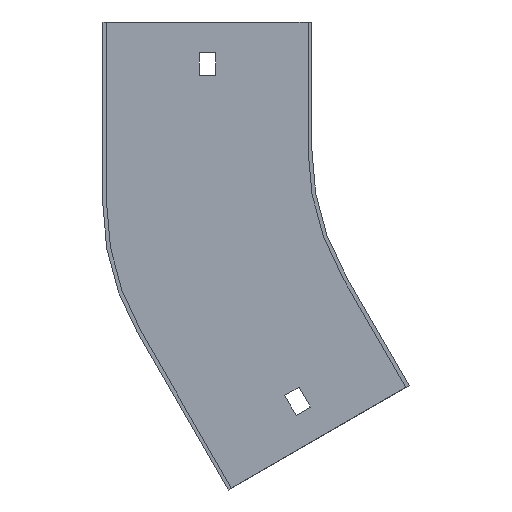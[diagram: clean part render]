
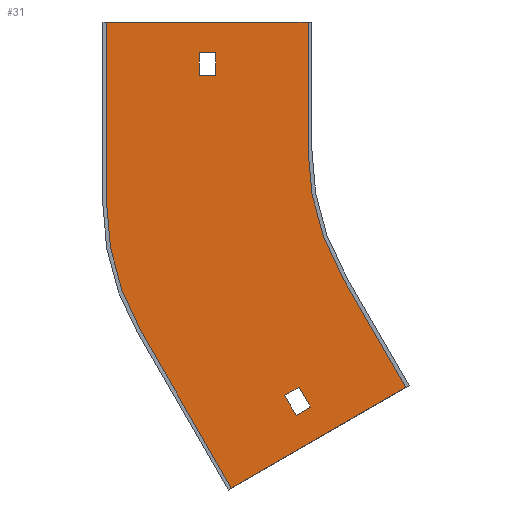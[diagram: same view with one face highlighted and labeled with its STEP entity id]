
A CAD part, front view. The second image highlights one B-rep face of the part: STEP entity #31.
In plain terms, the highlighted planar face has unit normal (0, -1, 0).
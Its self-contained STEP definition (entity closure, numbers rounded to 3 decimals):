
#10 = VECTOR ( 'NONE', #452, 1000. ) ;
#25 = VECTOR ( 'NONE', #812, 1000. ) ;
#27 = DIRECTION ( 'NONE',  ( -0.866, 0., -0.5 ) ) ;
#31 = ADVANCED_FACE ( 'NONE', ( #649, #177, #442 ), #115, .T. ) ;
#33 = VERTEX_POINT ( 'NONE', #791 ) ;
#57 = CARTESIAN_POINT ( 'NONE',  ( -100., -1.5, 50. ) ) ;
#58 = VERTEX_POINT ( 'NONE', #784 ) ;
#59 = DIRECTION ( 'NONE',  ( 0., 0., 1. ) ) ;
#63 = VECTOR ( 'NONE', #90, 1000. ) ;
#67 = VECTOR ( 'NONE', #238, 1000. ) ;
#78 = CARTESIAN_POINT ( 'NONE',  ( -98.996, -1.5, -101.034 ) ) ;
#79 = DIRECTION ( 'NONE',  ( 1., 0., 0. ) ) ;
#84 = CARTESIAN_POINT ( 'NONE',  ( 0., -1.5, 0. ) ) ;
#88 = EDGE_CURVE ( 'NONE', #481, #444, #389, .T. ) ;
#90 = DIRECTION ( 'NONE',  ( -0.866, 0., -0.5 ) ) ;
#102 = ORIENTED_EDGE ( 'NONE', *, *, #235, .F. ) ;
#107 = EDGE_LOOP ( 'NONE', ( #651, #408, #160, #636 ) ) ;
#109 = DIRECTION ( 'NONE',  ( 0., 0., -1. ) ) ;
#112 = EDGE_CURVE ( 'NONE', #219, #33, #153, .T. ) ;
#113 = LINE ( 'NONE', #509, #67 ) ;
#115 = PLANE ( 'NONE',  #499 ) ;
#118 = ORIENTED_EDGE ( 'NONE', *, *, #776, .F. ) ;
#133 = ORIENTED_EDGE ( 'NONE', *, *, #788, .F. ) ;
#137 = CARTESIAN_POINT ( 'NONE',  ( -117.996, -1.5, -68.125 ) ) ;
#141 = CARTESIAN_POINT ( 'NONE',  ( -130.019, -1.5, -132.801 ) ) ;
#144 = CARTESIAN_POINT ( 'NONE',  ( -179., -1.5, -21.168 ) ) ;
#153 = CIRCLE ( 'NONE', #806, 100. ) ;
#160 = ORIENTED_EDGE ( 'NONE', *, *, #339, .T. ) ;
#166 = VERTEX_POINT ( 'NONE', #141 ) ;
#177 = FACE_OUTER_BOUND ( 'NONE', #336, .T. ) ;
#188 = ORIENTED_EDGE ( 'NONE', *, *, #702, .F. ) ;
#192 = DIRECTION ( 'NONE',  ( -1., 0., 0. ) ) ;
#210 = LINE ( 'NONE', #226, #63 ) ;
#219 = VERTEX_POINT ( 'NONE', #419 ) ;
#223 = VECTOR ( 'NONE', #720, 1000. ) ;
#226 = CARTESIAN_POINT ( 'NONE',  ( 14.5, -1.5, -25.115 ) ) ;
#231 = ORIENTED_EDGE ( 'NONE', *, *, #496, .F. ) ;
#235 = EDGE_CURVE ( 'NONE', #319, #166, #626, .T. ) ;
#238 = DIRECTION ( 'NONE',  ( 0.866, 0., 0.5 ) ) ;
#252 = CARTESIAN_POINT ( 'NONE',  ( -136.25, -1.5, 0. ) ) ;
#254 = LINE ( 'NONE', #457, #279 ) ;
#258 = EDGE_CURVE ( 'NONE', #288, #219, #861, .T. ) ;
#266 = CARTESIAN_POINT ( 'NONE',  ( 0., -1.5, 29. ) ) ;
#268 = LINE ( 'NONE', #728, #697 ) ;
#269 = DIRECTION ( 'NONE',  ( 0., -1., 0. ) ) ;
#272 = CARTESIAN_POINT ( 'NONE',  ( -136.25, -1.5, 29. ) ) ;
#279 = VECTOR ( 'NONE', #59, 1000. ) ;
#283 = CARTESIAN_POINT ( 'NONE',  ( -179., -1.5, -21.168 ) ) ;
#288 = VERTEX_POINT ( 'NONE', #785 ) ;
#293 = VECTOR ( 'NONE', #608, 1000. ) ;
#300 = EDGE_CURVE ( 'NONE', #444, #827, #782, .T. ) ;
#301 = ORIENTED_EDGE ( 'NONE', *, *, #450, .F. ) ;
#316 = CARTESIAN_POINT ( 'NONE',  ( -109.125, -1.5, -96.49 ) ) ;
#319 = VERTEX_POINT ( 'NONE', #455 ) ;
#323 = LINE ( 'NONE', #266, #567 ) ;
#325 = LINE ( 'NONE', #144, #722 ) ;
#327 = DIRECTION ( 'NONE',  ( 0., 0., -1. ) ) ;
#336 = EDGE_LOOP ( 'NONE', ( #133, #590, #188, #502, #102, #764, #569, #531 ) ) ;
#339 = EDGE_CURVE ( 'NONE', #827, #638, #323, .T. ) ;
#346 = CIRCLE ( 'NONE', #451, 100. ) ;
#364 = VECTOR ( 'NONE', #718, 1000. ) ;
#376 = CARTESIAN_POINT ( 'NONE',  ( -104.625, -1.5, -104.284 ) ) ;
#386 = DIRECTION ( 'NONE',  ( 1., 0., 0. ) ) ;
#388 = DIRECTION ( 'NONE',  ( 0., 1., 0. ) ) ;
#389 = LINE ( 'NONE', #660, #440 ) ;
#401 = LINE ( 'NONE', #815, #25 ) ;
#408 = ORIENTED_EDGE ( 'NONE', *, *, #300, .T. ) ;
#410 = CARTESIAN_POINT ( 'NONE',  ( -165.603, -1.5, -71.168 ) ) ;
#419 = CARTESIAN_POINT ( 'NONE',  ( -100., -1.5, 0. ) ) ;
#440 = VECTOR ( 'NONE', #79, 1000. ) ;
#442 = FACE_BOUND ( 'NONE', #107, .T. ) ;
#444 = VERTEX_POINT ( 'NONE', #821 ) ;
#447 = CARTESIAN_POINT ( 'NONE',  ( 0., -1.5, 0. ) ) ;
#449 = EDGE_LOOP ( 'NONE', ( #118, #492, #231, #301 ) ) ;
#450 = EDGE_CURVE ( 'NONE', #738, #543, #210, .T. ) ;
#451 = AXIS2_PLACEMENT_3D ( 'NONE', #680, #388, #327 ) ;
#452 = DIRECTION ( 'NONE',  ( -0.5, 0., 0.866 ) ) ;
#455 = CARTESIAN_POINT ( 'NONE',  ( -61.603, -1.5, -93.301 ) ) ;
#457 = CARTESIAN_POINT ( 'NONE',  ( -142.75, -1.5, 0. ) ) ;
#481 = VERTEX_POINT ( 'NONE', #552 ) ;
#487 = EDGE_CURVE ( 'NONE', #33, #319, #751, .T. ) ;
#489 = VERTEX_POINT ( 'NONE', #283 ) ;
#491 = CARTESIAN_POINT ( 'NONE',  ( -86.603, -1.5, -50. ) ) ;
#492 = ORIENTED_EDGE ( 'NONE', *, *, #568, .F. ) ;
#496 = EDGE_CURVE ( 'NONE', #543, #558, #401, .T. ) ;
#499 = AXIS2_PLACEMENT_3D ( 'NONE', #447, #713, #109 ) ;
#502 = ORIENTED_EDGE ( 'NONE', *, *, #659, .F. ) ;
#509 = CARTESIAN_POINT ( 'NONE',  ( 19., -1.5, -32.909 ) ) ;
#521 = DIRECTION ( 'NONE',  ( 0., 0., -1. ) ) ;
#531 = ORIENTED_EDGE ( 'NONE', *, *, #258, .F. ) ;
#543 = VERTEX_POINT ( 'NONE', #316 ) ;
#551 = DIRECTION ( 'NONE',  ( 0., 0., -1. ) ) ;
#552 = CARTESIAN_POINT ( 'NONE',  ( -142.75, -1.5, 38. ) ) ;
#558 = VERTEX_POINT ( 'NONE', #376 ) ;
#561 = CARTESIAN_POINT ( 'NONE',  ( -60.304, -1.5, -92.551 ) ) ;
#567 = VECTOR ( 'NONE', #192, 1000. ) ;
#568 = EDGE_CURVE ( 'NONE', #558, #715, #113, .T. ) ;
#569 = ORIENTED_EDGE ( 'NONE', *, *, #112, .F. ) ;
#590 = ORIENTED_EDGE ( 'NONE', *, *, #853, .F. ) ;
#600 = DIRECTION ( 'NONE',  ( 0., 0., 1. ) ) ;
#608 = DIRECTION ( 'NONE',  ( 0.5, 0., -0.866 ) ) ;
#610 = CARTESIAN_POINT ( 'NONE',  ( -130.019, -1.5, -132.801 ) ) ;
#614 = VECTOR ( 'NONE', #27, 1000. ) ;
#626 = LINE ( 'NONE', #561, #614 ) ;
#636 = ORIENTED_EDGE ( 'NONE', *, *, #848, .T. ) ;
#638 = VERTEX_POINT ( 'NONE', #799 ) ;
#649 = FACE_BOUND ( 'NONE', #449, .T. ) ;
#651 = ORIENTED_EDGE ( 'NONE', *, *, #88, .T. ) ;
#652 = CARTESIAN_POINT ( 'NONE',  ( -103.496, -1.5, -93.24 ) ) ;
#659 = EDGE_CURVE ( 'NONE', #166, #711, #789, .T. ) ;
#660 = CARTESIAN_POINT ( 'NONE',  ( 0., -1.5, 38. ) ) ;
#663 = LINE ( 'NONE', #137, #223 ) ;
#680 = CARTESIAN_POINT ( 'NONE',  ( -79., -1.5, -21.168 ) ) ;
#697 = VECTOR ( 'NONE', #386, 1000. ) ;
#702 = EDGE_CURVE ( 'NONE', #711, #489, #346, .T. ) ;
#707 = VECTOR ( 'NONE', #521, 1000. ) ;
#711 = VERTEX_POINT ( 'NONE', #410 ) ;
#713 = DIRECTION ( 'NONE',  ( 0., -1., 0. ) ) ;
#715 = VERTEX_POINT ( 'NONE', #78 ) ;
#718 = DIRECTION ( 'NONE',  ( 0., 0., -1. ) ) ;
#720 = DIRECTION ( 'NONE',  ( -0.5, 0., 0.866 ) ) ;
#722 = VECTOR ( 'NONE', #600, 1000. ) ;
#728 = CARTESIAN_POINT ( 'NONE',  ( -180.5, -1.5, 50. ) ) ;
#738 = VERTEX_POINT ( 'NONE', #652 ) ;
#751 = LINE ( 'NONE', #491, #293 ) ;
#764 = ORIENTED_EDGE ( 'NONE', *, *, #487, .F. ) ;
#776 = EDGE_CURVE ( 'NONE', #715, #738, #663, .T. ) ;
#782 = LINE ( 'NONE', #252, #364 ) ;
#784 = CARTESIAN_POINT ( 'NONE',  ( -179., -1.5, 50. ) ) ;
#785 = CARTESIAN_POINT ( 'NONE',  ( -100., -1.5, 50. ) ) ;
#788 = EDGE_CURVE ( 'NONE', #58, #288, #268, .T. ) ;
#789 = LINE ( 'NONE', #610, #10 ) ;
#791 = CARTESIAN_POINT ( 'NONE',  ( -86.603, -1.5, -50. ) ) ;
#799 = CARTESIAN_POINT ( 'NONE',  ( -142.75, -1.5, 29. ) ) ;
#806 = AXIS2_PLACEMENT_3D ( 'NONE', #84, #269, #551 ) ;
#812 = DIRECTION ( 'NONE',  ( 0.5, 0., -0.866 ) ) ;
#815 = CARTESIAN_POINT ( 'NONE',  ( -123.625, -1.5, -71.375 ) ) ;
#821 = CARTESIAN_POINT ( 'NONE',  ( -136.25, -1.5, 38. ) ) ;
#827 = VERTEX_POINT ( 'NONE', #272 ) ;
#848 = EDGE_CURVE ( 'NONE', #638, #481, #254, .T. ) ;
#853 = EDGE_CURVE ( 'NONE', #489, #58, #325, .T. ) ;
#861 = LINE ( 'NONE', #57, #707 ) ;
